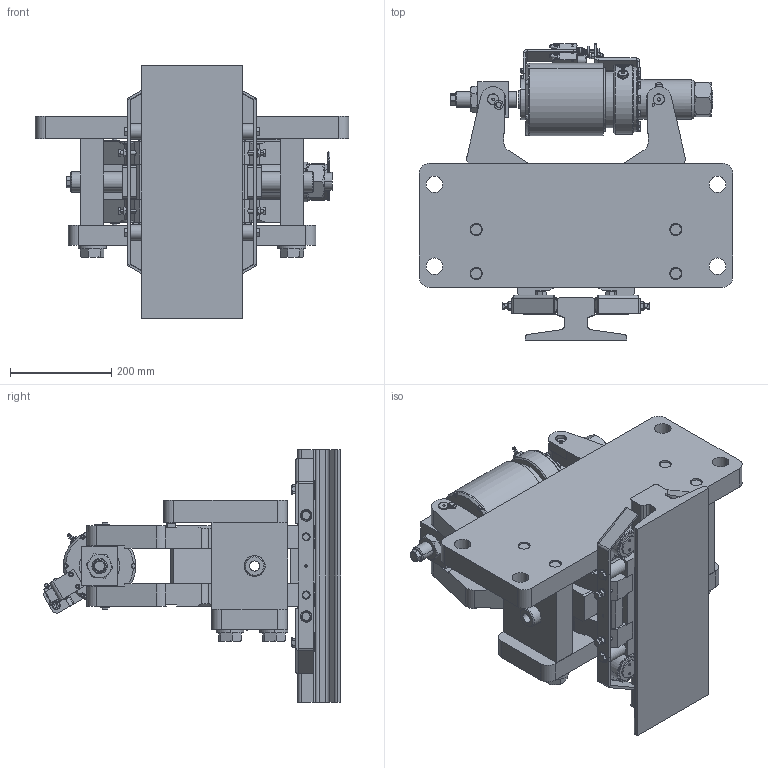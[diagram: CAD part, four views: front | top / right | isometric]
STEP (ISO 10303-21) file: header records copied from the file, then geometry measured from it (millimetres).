
FILE_DESCRIPTION((''),'2;1');
FILE_NAME('DR_085_FHM-050-100','2021-12-17T',('BOLS'),(''),'CREO PARAMETRIC BY PTC INC, 2018360','CREO PARAMETRIC BY PTC INC, 2018360','');
FILE_SCHEMA(('CONFIG_CONTROL_DESIGN'));
Products named in the file (1): DR_085_FHM-050-100
Bounding box: 620 x 587.86 x 500 mm (x, y, z)
Surface area: 2351987.2 mm2 (no closed solid volume)
Topology: 0 solids, 200 shells, 1555 faces, 6406 edges, 4933 vertices
Faces by surface type: plane 754, cylinder 449, cone 248, torus 62, bspline 26, sphere 14, revolution 2
Entity records: 118657 total; most frequent: CARTESIAN_POINT 47439, DIRECTION 9581, ORIENTED_EDGE 9261, PRESENTATION_STYLE_ASSIGNMENT 6604, STYLED_ITEM 6604, CURVE_STYLE 6404, EDGE_CURVE 6404, VERTEX_POINT 4933
